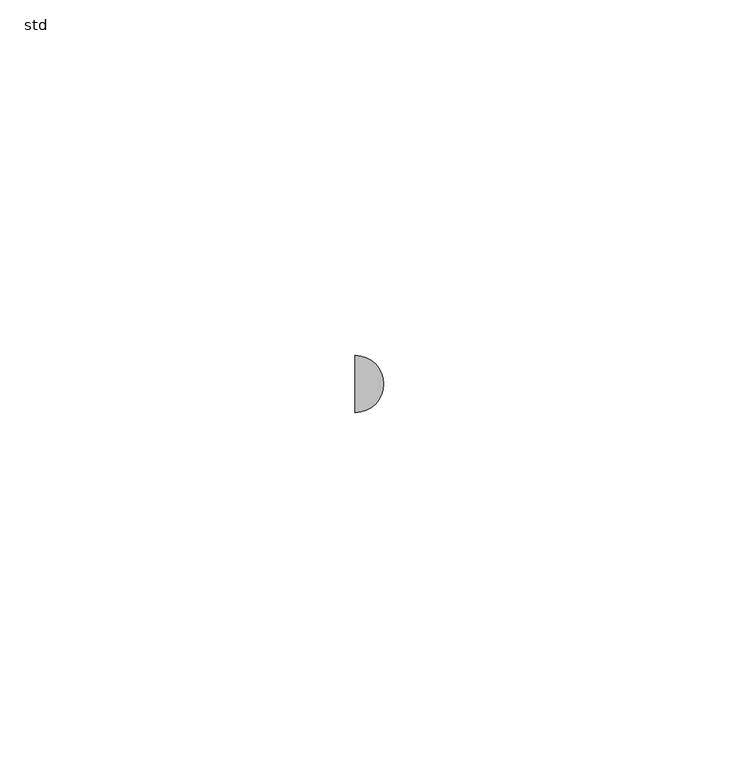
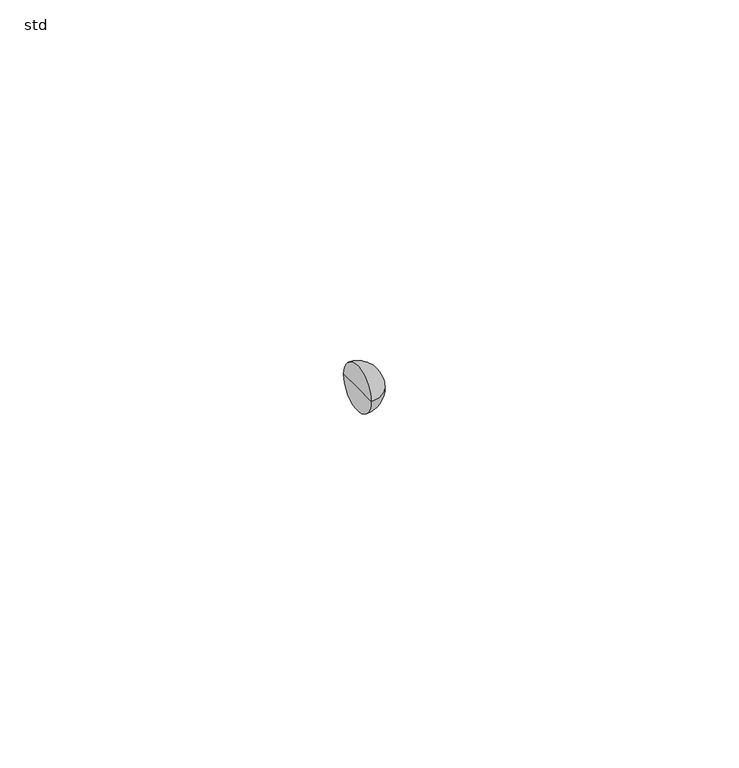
"""IFC4 building model written with IfcOpenShell, lengths in millimetres: pipe fitting geometry, PIF_ST_UN_GM-X multibranch_ACO : std."""

import ifcopenshell
import ifcopenshell.guid

model = None  # the IFC model being written
_history = None  # IfcOwnerHistory: only IFC2X3 demands one
_inside = {}  # id of a spatial element -> (the spatial element, [elements in it])
_under = {}  # id of a project, library or spatial element -> (it, [spatial elements below it])
_declared = {}  # id of a project -> (the project, [libraries it declares])
_typed = {}  # id of a type object -> (the type object, [elements of that type])
_made_of = {}  # id of a material, layer set ... -> (it, [elements and type objects made of it])


def new_model(schema):
    """Start an empty IFC model of exactly this schema.

    Asked for "IFC4X3", IfcOpenShell would pick the latest addendum, in which some entities
    have other attributes; the version numbers below select the first issue.
    IFC2X3 requires an IfcOwnerHistory on every rooted entity: one is made here for all.
    """
    global model, _history
    if schema == "IFC4X3":
        model = ifcopenshell.file(schema_version=(4, 3, 0, 0))
    else:
        model = ifcopenshell.file(schema=schema)
    _inside.clear()
    _under.clear()
    _declared.clear()
    _typed.clear()
    _made_of.clear()
    _history = None
    if model.schema == "IFC2X3":
        org = make("IfcOrganization", Name="unknown")
        user = make(
            "IfcPersonAndOrganization",
            ThePerson=make("IfcPerson", FamilyName="unknown"),
            TheOrganization=org,
        )
        app = make(
            "IfcApplication",
            ApplicationDeveloper=org,
            Version="unknown",
            ApplicationFullName="unknown",
            ApplicationIdentifier="unknown",
        )
        _history = make(
            "IfcOwnerHistory",
            OwningUser=user,
            OwningApplication=app,
            ChangeAction="ADDED",
            CreationDate=0,
        )
    return model


def make(cls, **values):
    """One entity of the class cls with the attributes given. An attribute that is None is left unset."""
    return model.create_entity(
        cls, **{name: value for name, value in values.items() if value is not None}
    )


def rooted(cls, **values):
    """An entity with a GlobalId (a new one), such as an element, a storey or a relation."""
    return make(cls, GlobalId=ifcopenshell.guid.new(), OwnerHistory=_history, **values)


def si_unit(unit_type, name, prefix=None):
    """IfcSIUnit, for example si_unit("LENGTHUNIT", "METRE", prefix="MILLI")."""
    return make("IfcSIUnit", UnitType=unit_type, Prefix=prefix, Name=name)


def assignment(units):
    """IfcUnitAssignment: the units of a project."""
    return None if units is None else make("IfcUnitAssignment", Units=units)


def point(xyz):
    """IfcCartesianPoint."""
    return None if xyz is None else make("IfcCartesianPoint", Coordinates=xyz)


def direction(xyz):
    """IfcDirection."""
    return None if xyz is None else make("IfcDirection", DirectionRatios=xyz)


def frame(location, z_axis=None, x_axis=None):
    """IfcAxis2Placement3D, a coordinate frame: its origin and axes. An axis left out is left unset."""
    return make(
        "IfcAxis2Placement3D",
        Location=point(location),
        Axis=direction(z_axis),
        RefDirection=direction(x_axis),
    )


def origin():
    """The frame at (0, 0, 0) with its axes left unset."""
    return frame((0.0, 0.0, 0.0))


def place(relative_to, where):
    """IfcLocalPlacement: puts the frame where relative to a parent placement (None: the world)."""
    return make(
        "IfcLocalPlacement", PlacementRelTo=relative_to, RelativePlacement=where
    )


def context(
    kind, dimensions, precision=None, world=None, true_north=None, identifier=None
):
    """IfcGeometricRepresentationContext, for example the 3D "Model" context."""
    return make(
        "IfcGeometricRepresentationContext",
        ContextIdentifier=identifier,
        ContextType=kind,
        CoordinateSpaceDimension=dimensions,
        Precision=precision,
        WorldCoordinateSystem=world,
        TrueNorth=true_north,
    )


def project(units=None, contexts=None):
    """IfcProject with its units and contexts."""
    return rooted(
        "IfcProject",
        Name="project",
        RepresentationContexts=contexts,
        UnitsInContext=assignment(units),
    )


def spatial(cls, under=None, at=None, **own):
    """A site, building, storey or space (cls), placed at a placement, below another one or the project."""
    s = rooted(cls, ObjectPlacement=at, **own)
    if under is not None:
        _under.setdefault(under.id(), (under, []))[1].append(s)
    return s


def circle_curve(where, radius):
    """IfcCircle in the frame where."""
    return make("IfcCircle", Position=where, Radius=radius)


def ellipse_curve(where, semi_axis1, semi_axis2):
    """IfcEllipse in the frame where."""
    return make(
        "IfcEllipse", Position=where, SemiAxis1=semi_axis1, SemiAxis2=semi_axis2
    )


def trimmed(basis, trim1, trim2, sense, master):
    """IfcTrimmedCurve: the piece of a basis curve between two trims."""
    return make(
        "IfcTrimmedCurve",
        BasisCurve=basis,
        Trim1=trim1,
        Trim2=trim2,
        SenseAgreement=sense,
        MasterRepresentation=master,
    )


def shape(context_of_items, identifier, shape_type, items):
    """IfcShapeRepresentation: the items that make up one representation, for example the "Body"."""
    return make(
        "IfcShapeRepresentation",
        ContextOfItems=context_of_items,
        RepresentationIdentifier=identifier,
        RepresentationType=shape_type,
        Items=items,
    )


def source(mapping_origin, context_of_items, identifier, shape_type, items):
    """IfcRepresentationMap: a shape defined once, which mapped items show again and again."""
    return make(
        "IfcRepresentationMap",
        MappingOrigin=mapping_origin,
        MappedRepresentation=shape(context_of_items, identifier, shape_type, items),
    )


def transform(
    local_origin,
    x_axis=None,
    y_axis=None,
    z_axis=None,
    scale=None,
    scale2=None,
    scale3=None,
    uniform=True,
):
    """IfcCartesianTransformationOperator3D, or its non-uniform kind. x_axis, y_axis, z_axis: its Axis1, 2, 3."""
    if uniform:
        return make(
            "IfcCartesianTransformationOperator3D",
            Axis1=direction(x_axis),
            Axis2=direction(y_axis),
            LocalOrigin=point(local_origin),
            Scale=scale,
            Axis3=direction(z_axis),
        )
    return make(
        "IfcCartesianTransformationOperator3DnonUniform",
        Axis1=direction(x_axis),
        Axis2=direction(y_axis),
        LocalOrigin=point(local_origin),
        Scale=scale,
        Axis3=direction(z_axis),
        Scale2=scale2,
        Scale3=scale3,
    )


def mapped(mapping_source, mapping_target):
    """IfcMappedItem: shows the shape of a source again, moved by a transform."""
    return make(
        "IfcMappedItem", MappingSource=mapping_source, MappingTarget=mapping_target
    )


def made_of(thing, what):
    """Note that an element or type object is made of a material, layer set ...; save() writes the relation."""
    if what is not None:
        _made_of.setdefault(what.id(), (what, []))[1].append(thing)
    return thing


def element(
    cls,
    number,
    at=None,
    inside=None,
    cuts=None,
    type_object=None,
    material=None,
    context=None,
    identifier="Body",
    shape_type=None,
    held_by="IfcProductDefinitionShape",
    body=None,
    shapes=None,
    **own,
):
    """One element of the class cls, such as IfcWall. Its Tag is "e" and its number.

    at: its placement. inside: the storey or other place that contains it. cuts: it is an
    opening in that element (IfcRelVoidsElement). A single representation is given by context,
    identifier, shape_type and body (its items); several are given by shapes. held_by: the class
    of the entity that holds the representations. save() writes the other relations.
    """
    e = rooted(cls, Tag="e%d" % number, ObjectPlacement=at, **own)
    if body is not None:
        shapes = [shape(context, identifier, shape_type, body)]
    if shapes is not None:
        e.Representation = make(held_by, Representations=shapes)
    if inside is not None:
        _inside.setdefault(inside.id(), (inside, []))[1].append(e)
    if cuts is not None:
        rooted(
            "IfcRelVoidsElement", RelatingBuildingElement=cuts, RelatedOpeningElement=e
        )
    if type_object is not None:
        _typed.setdefault(type_object.id(), (type_object, []))[1].append(e)
    return made_of(e, material)


def aggregate(whole, parts):
    """IfcRelAggregates: a whole, such as a stair, and the parts it consists of."""
    return rooted("IfcRelAggregates", RelatingObject=whole, RelatedObjects=parts)


def save(model, path):
    """Write the relations noted so far, then the file.

    IfcRelAggregates (storeys below a building ...), IfcRelContainedInSpatialStructure (elements
    in a storey), IfcRelDefinesByType, IfcRelAssociatesMaterial and IfcRelDeclares: one each for
    every whole, place, type object, material and project.
    """
    for whole, parts in _under.values():
        aggregate(whole, parts)
    for where, things in _inside.values():
        rooted(
            "IfcRelContainedInSpatialStructure",
            RelatedElements=things,
            RelatingStructure=where,
        )
    for kind, things in _typed.values():
        rooted("IfcRelDefinesByType", RelatedObjects=things, RelatingType=kind)
    for what, things in _made_of.values():
        rooted("IfcRelAssociatesMaterial", RelatedObjects=things, RelatingMaterial=what)
    for by, libraries in _declared.values():
        rooted("IfcRelDeclares", RelatingContext=by, RelatedDefinitions=libraries)
    model.write(path)


def plane_surface(at):
    """IfcPlane: the flat surface through the origin of the frame at, square to its z axis."""
    return make("IfcPlane", Position=at)


def revolved_surface(curve, axis_point, axis_direction):
    """IfcSurfaceOfRevolution: the curve turned about the line through axis_point along axis_direction."""
    return make(
        "IfcSurfaceOfRevolution",
        SweptCurve=make("IfcArbitraryOpenProfileDef", ProfileType="CURVE", Curve=curve),
        AxisPosition=make("IfcAxis1Placement", Location=point(axis_point), Axis=direction(axis_direction)),
    )


def advanced_brep(points, edges, surfaces, faces):
    """IfcAdvancedBrep: a solid bounded by faces that lie on surfaces and meet in shared edges.

    An edge is (start, end): straight between two places in points (the first is 0);
    or (start, end, curve); or (start, end, curve, False) where it runs against its curve.
    A face is (place in surfaces, loops), or (place, loops, False) where it looks against
    its surface's normal. A loop lists edges by number (the first is 1), with a minus sign
    where the edge is run from its end to its start. The first loop is the outer one.
    """
    corners = [point(p) for p in points]
    vertices = [make("IfcVertexPoint", VertexGeometry=c) for c in corners]
    made = []
    for start, end, *more in edges:
        made.append(
            make(
                "IfcEdgeCurve",
                EdgeStart=vertices[start],
                EdgeEnd=vertices[end],
                EdgeGeometry=more[0] if more else make("IfcPolyline", Points=[corners[start], corners[end]]),
                SameSense=more[1] if len(more) > 1 else True,
            )
        )
    hull = []
    for where, loops, *sense in faces:
        bounds = []
        for j, loop in enumerate(loops):
            ring = [make("IfcOrientedEdge", EdgeElement=made[abs(k) - 1], Orientation=k > 0) for k in loop]
            bounds.append(
                make(
                    "IfcFaceOuterBound" if j == 0 else "IfcFaceBound",
                    Bound=make("IfcEdgeLoop", EdgeList=ring),
                    Orientation=True,
                )
            )
        hull.append(make("IfcAdvancedFace", Bounds=bounds, FaceSurface=surfaces[where], SameSense=sense[0] if sense else True))
    return make("IfcAdvancedBrep", Outer=make("IfcClosedShell", CfsFaces=hull))


def std_630098ac(model_context):
    return source(origin(), model_context, "Body", "AdvancedBrep", [
        advanced_brep(
        [(-110.0, 0.0, 0.0), (-110.0, 4.0095617, 0.0), (-110.0, -4.0095617, 0.0), (-105.9904383, 0.0, 0.0)],
        [
            (0, 1),
            (1, 2, circle_curve(frame((-110.0, 0.0, 0.0), z_axis=(-1.0, 0.0, 0.0), x_axis=(0.0, 1.0, 0.0)), 4.0095617)),
            (2, 0),
            (2, 1, circle_curve(frame((-110.0, 0.0, 0.0), z_axis=(-1.0, 0.0, 0.0), x_axis=(0.0, 1.0, 0.0)), 4.0095617)),
            (1, 3, circle_curve(frame((-110.0, 0.0, 0.0), z_axis=(0.0, 0.0, -1.0), x_axis=(1.0, 0.0, 0.0)), 4.0095617)),
            (3, 2, circle_curve(frame((-110.0, 0.0, 0.0), z_axis=(0.0, 0.0, -1.0), x_axis=(1.0, 0.0, 0.0)), 4.0095617)),
        ],
        [
            plane_surface(frame((-110.0, 0.0, 0.0), z_axis=(-1.0, 0.0, 0.0), x_axis=(0.0, 1.0, 0.0))),
            revolved_surface(trimmed(ellipse_curve(frame((-110.0, 0.0, 0.0), z_axis=(0.0, 0.0, 1.0), x_axis=(1.0, 0.0, 0.0)), 4.0095617, 4.0095617), [point((-105.9904383, 0.0, 0.0))], [point((-110.0, 4.0095617, 0.0))], True, "CARTESIAN"), (-110.0, 0.0, 0.0), (-1.0, 0.0, 0.0)),
        ],
        [
            (0, [[1, 2, 3]]),
            (0, [[-3, 4, -1]]),
            (1, [[-2, 5, 6]]),
            (1, [[-4, -6, -5]]),
        ],
    ),
    ])


if __name__ == "__main__":
    model = new_model("IFC4")
    model_context = context("Model", 3, world=origin())
    ifc_project = project(units=[si_unit("LENGTHUNIT", "METRE", prefix="MILLI")], contexts=[model_context])
    site = spatial("IfcSite", under=ifc_project)
    building = spatial("IfcBuilding", under=site)
    placement = place(None, origin())
    std_shape = std_630098ac(model_context)
    element("IfcPipeFitting", 1, ObjectType="PIF_ST_UN_GM-X multibranch_ACO : std", at=placement, inside=building, context=model_context, shape_type="MappedRepresentation", body=[
        mapped(std_shape, transform((0.0, 0.0, 0.0), x_axis=(1.0, 0.0, 0.0), y_axis=(0.0, 1.0, 0.0), z_axis=(0.0, 0.0, 1.0))),
    ])
    save(model, "model.ifc")
